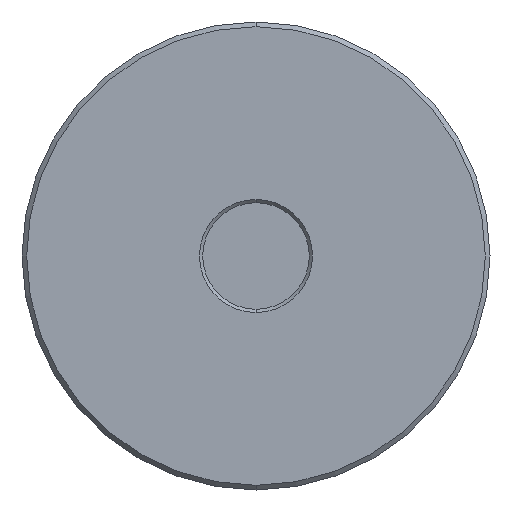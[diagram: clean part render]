
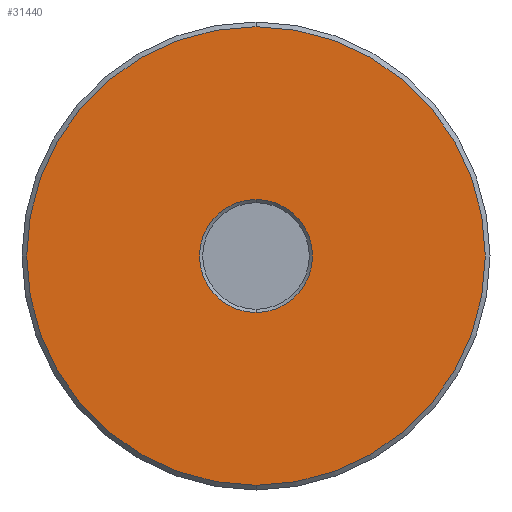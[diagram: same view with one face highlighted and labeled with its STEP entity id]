
A CAD part, front view. The second image highlights one B-rep face of the part: STEP entity #31440.
In plain terms, the highlighted planar face has unit normal (0, -1, 0).
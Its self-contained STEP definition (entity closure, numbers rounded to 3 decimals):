
#3554 = EDGE_CURVE ( 'NONE', #46885, #27868, #45680, .T. ) ;
#4532 = DIRECTION ( 'NONE',  ( 0., 1., 0. ) ) ;
#5003 = CIRCLE ( 'NONE', #44269, 23.9 ) ;
#5111 = DIRECTION ( 'NONE',  ( 0., 1., 0. ) ) ;
#6360 = DIRECTION ( 'NONE',  ( 0., 0., 1. ) ) ;
#7311 = CARTESIAN_POINT ( 'NONE',  ( 0., 0., 0. ) ) ;
#8331 = AXIS2_PLACEMENT_3D ( 'NONE', #24303, #14329, #43092 ) ;
#9904 = CARTESIAN_POINT ( 'NONE',  ( 0., 0., 0. ) ) ;
#9939 = VERTEX_POINT ( 'NONE', #41275 ) ;
#12264 = AXIS2_PLACEMENT_3D ( 'NONE', #9904, #34104, #53892 ) ;
#14329 = DIRECTION ( 'NONE',  ( 0., -1., 0. ) ) ;
#15193 = DIRECTION ( 'NONE',  ( 0., 0., 1. ) ) ;
#17306 = ORIENTED_EDGE ( 'NONE', *, *, #48678, .T. ) ;
#20645 = ORIENTED_EDGE ( 'NONE', *, *, #59223, .F. ) ;
#23959 = AXIS2_PLACEMENT_3D ( 'NONE', #30928, #5111, #15193 ) ;
#24303 = CARTESIAN_POINT ( 'NONE',  ( -23.9, 0., 0. ) ) ;
#27868 = VERTEX_POINT ( 'NONE', #46882 ) ;
#29799 = EDGE_CURVE ( 'NONE', #46172, #9939, #5003, .T. ) ;
#30371 = EDGE_LOOP ( 'NONE', ( #59162, #20645 ) ) ;
#30928 = CARTESIAN_POINT ( 'NONE',  ( 0., 0., 0. ) ) ;
#31440 = ADVANCED_FACE ( 'NONE', ( #36934, #37257 ), #56709, .T. ) ;
#32562 = CIRCLE ( 'NONE', #40849, 23.9 ) ;
#34104 = DIRECTION ( 'NONE',  ( 0., 1., 0. ) ) ;
#36934 = FACE_BOUND ( 'NONE', #47367, .T. ) ;
#37257 = FACE_OUTER_BOUND ( 'NONE', #30371, .T. ) ;
#40019 = ORIENTED_EDGE ( 'NONE', *, *, #29799, .T. ) ;
#40849 = AXIS2_PLACEMENT_3D ( 'NONE', #48848, #4532, #6360 ) ;
#41275 = CARTESIAN_POINT ( 'NONE',  ( 0., 0., -23.9 ) ) ;
#41899 = DIRECTION ( 'NONE',  ( 0., 1., 0. ) ) ;
#43092 = DIRECTION ( 'NONE',  ( 0., 0., -1. ) ) ;
#44269 = AXIS2_PLACEMENT_3D ( 'NONE', #7311, #41899, #56487 ) ;
#45680 = CIRCLE ( 'NONE', #23959, 97. ) ;
#46172 = VERTEX_POINT ( 'NONE', #56080 ) ;
#46882 = CARTESIAN_POINT ( 'NONE',  ( 0., 0., -97. ) ) ;
#46885 = VERTEX_POINT ( 'NONE', #56092 ) ;
#47367 = EDGE_LOOP ( 'NONE', ( #17306, #40019 ) ) ;
#48394 = CIRCLE ( 'NONE', #12264, 97. ) ;
#48678 = EDGE_CURVE ( 'NONE', #9939, #46172, #32562, .T. ) ;
#48848 = CARTESIAN_POINT ( 'NONE',  ( 0., 0., 0. ) ) ;
#53892 = DIRECTION ( 'NONE',  ( 0., 0., 1. ) ) ;
#56080 = CARTESIAN_POINT ( 'NONE',  ( 0., 0., 23.9 ) ) ;
#56092 = CARTESIAN_POINT ( 'NONE',  ( 0., 0., 97. ) ) ;
#56487 = DIRECTION ( 'NONE',  ( 0., 0., 1. ) ) ;
#56709 = PLANE ( 'NONE',  #8331 ) ;
#59162 = ORIENTED_EDGE ( 'NONE', *, *, #3554, .F. ) ;
#59223 = EDGE_CURVE ( 'NONE', #27868, #46885, #48394, .T. ) ;
